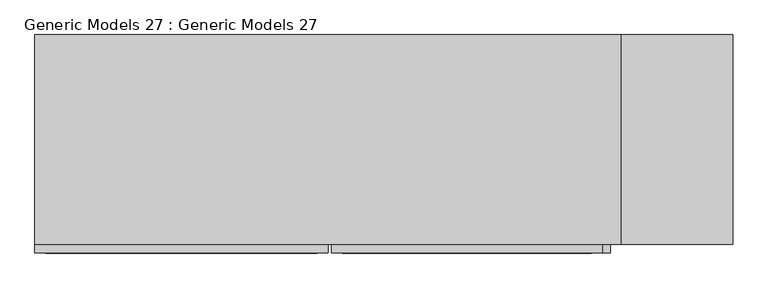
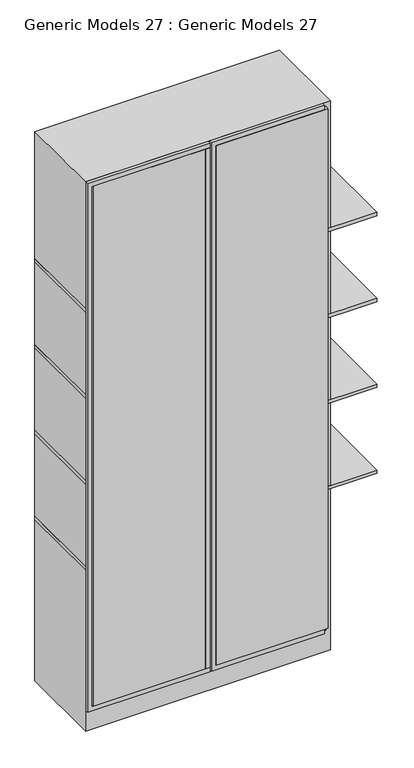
"""IFC4 building model written with IfcOpenShell, lengths in millimetres: proxy geometry, Generic Models 27 : Generic Models 27."""

from ifc_helpers import new_model, si_unit, frame, origin, place, context, project, spatial, polyline, outline, extrude, faceted_brep, source, transform, mapped, element, save


def generic_models_27_generic_models_27_d3de7ab0(model_context):
    return source(origin(), model_context, "Body", "SolidModel", [
        extrude(outline(polyline([(99604.3502509, 12730.5259381), (98319.1043164, 12730.5259381), (98319.1043164, 13116.5358144), (99604.3502509, 13116.5358144), (99604.3502509, 12730.5259381)]), holes=[polyline([(98342.3939153, 12908.2609157), (98342.3939153, 12938.8008367), (98320.1824272, 12938.8008367), (98320.1824272, 12908.2609157), (98342.3939153, 12908.2609157)]), polyline([(99375.8147175, 12993.7958986), (99375.8147175, 12963.2559776), (99398.0262056, 12963.2559776), (99398.0262056, 12993.7958986), (99375.8147175, 12993.7958986)])]), frame((0.0, 0.0, 1950.0), z_axis=(0.0, 0.0, 1.0), x_axis=(1.0, 0.0, 0.0)), (0.0, 0.0, 1.0), 15.2810656),
        extrude(outline(polyline([(99604.3502509, 12730.5259381), (98319.1043164, 12730.5259381), (98319.1043164, 13116.5358144), (99604.3502509, 13116.5358144), (99604.3502509, 12730.5259381)]), holes=[polyline([(98342.3939153, 12908.2609157), (98342.3939153, 12938.8008367), (98320.1824272, 12938.8008367), (98320.1824272, 12908.2609157), (98342.3939153, 12908.2609157)]), polyline([(99375.8147175, 12993.7958986), (99375.8147175, 12963.2559776), (99398.0262056, 12963.2559776), (99398.0262056, 12993.7958986), (99375.8147175, 12993.7958986)])]), frame((0.0, 0.0, 1550.0), z_axis=(0.0, 0.0, 1.0), x_axis=(1.0, 0.0, 0.0)), (0.0, 0.0, 1.0), 15.2810656),
        extrude(outline(polyline([(99604.3502509, 12730.5259381), (98319.1043164, 12730.5259381), (98319.1043164, 13116.5358144), (99604.3502509, 13116.5358144), (99604.3502509, 12730.5259381)]), holes=[polyline([(98342.3939153, 12908.2609157), (98342.3939153, 12938.8008367), (98320.1824272, 12938.8008367), (98320.1824272, 12908.2609157), (98342.3939153, 12908.2609157)]), polyline([(99375.8147175, 12993.7958986), (99375.8147175, 12963.2559776), (99398.0262056, 12963.2559776), (99398.0262056, 12993.7958986), (99375.8147175, 12993.7958986)])]), frame((0.0, 0.0, 1150.0), z_axis=(0.0, 0.0, 1.0), x_axis=(1.0, 0.0, 0.0)), (0.0, 0.0, 1.0), 15.2810656),
        extrude(outline(polyline([(99604.3502509, 12730.5259381), (98319.1043164, 12730.5259381), (98319.1043164, 13116.5358144), (99604.3502509, 13116.5358144), (99604.3502509, 12730.5259381)]), holes=[polyline([(98342.3939153, 12908.2609157), (98342.3939153, 12938.8008367), (98320.1824272, 12938.8008367), (98320.1824272, 12908.2609157), (98342.3939153, 12908.2609157)]), polyline([(99375.8147175, 12993.7958986), (99375.8147175, 12963.2559776), (99398.0262056, 12963.2559776), (99398.0262056, 12993.7958986), (99375.8147175, 12993.7958986)])]), frame((0.0, 0.0, 750.0), z_axis=(0.0, 0.0, 1.0), x_axis=(1.0, 0.0, 0.0)), (0.0, 0.0, 1.0), 15.2810656),
        extrude(outline(polyline([(98859.1043164, 12714.5259381), (98343.6703891, 12714.5259381), (98343.6703891, 12730.5259381), (98859.1043164, 12730.5259381), (98859.1043164, 12714.5259381)])), frame((0.0, 0.0, 117.3469012), z_axis=(0.0, 0.0, 1.0), x_axis=(1.0, 0.0, 0.0)), (0.0, 0.0, 1.0), 2420.0),
        extrude(outline(polyline([(99379.1043164, 12714.5259381), (98885.3543164, 12714.5259381), (98885.3543164, 12730.5259381), (99379.1043164, 12730.5259381), (99379.1043164, 12714.5259381)])), frame((0.0, 0.0, 117.3469012), z_axis=(0.0, 0.0, 1.0), x_axis=(1.0, 0.0, 0.0)), (0.0, 0.0, 1.0), 2420.0),
        faceted_brep([(98319.1043164, 12730.5259381, 2557.4202247), (98319.1043164, 12730.5259381, 0.0), (99398.5838644, 12730.5259381, 0.0), (99398.5838644, 12730.5259381, 2557.4202247), (98339.1043164, 12730.5259381, 2537.4202247), (99379.1043164, 12730.5259381, 2537.4202247), (99379.1043164, 12730.5259381, 97.3469012), (98339.1043164, 12730.5259381, 97.3469012), (98319.1043164, 13116.5358144, 2557.4202247), (99398.5838644, 13116.5358144, 2557.4202247), (99398.5838644, 13116.5358144, 0.0), (98319.1043164, 13116.5358144, 0.0), (98339.1043164, 13116.5358144, 2537.4202247), (98339.1043164, 13116.5358144, 97.3469012), (99379.1043164, 13116.5358144, 97.3469012), (99379.1043164, 13116.5358144, 2537.4202247), (99379.1043164, 12963.2559776, 102.6030605), (99379.1043164, 12993.7958986, 102.6030605), (99379.1043164, 12993.7958986, 2496.40865), (99379.1043164, 12963.2559776, 2496.40865), (98339.1043164, 12938.8008367, 97.3469012), (98320.1824272, 12938.8008367, 97.3469012), (98320.1824272, 12908.2609157, 97.3469012), (98339.1043164, 12908.2609157, 97.3469012), (98339.1043164, 12908.2609157, 2531.7167563), (98339.1043164, 12938.8008367, 2531.7167563), (98320.1824272, 12908.2609157, 2531.7167563), (98320.1824272, 12938.8008367, 2531.7167563), (99398.0262056, 12963.2559776, 102.6030605), (99398.0262056, 12993.7958986, 102.6030605), (99398.0262056, 12993.7958986, 2496.40865), (99398.0262056, 12963.2559776, 2496.40865)], [[[0, 1, 2, 3], [4, 5, 6, 7]], [[8, 9, 10, 11], [12, 13, 14, 15]], [[1, 0, 8, 11]], [[2, 1, 11, 10]], [[3, 2, 10, 9]], [[0, 3, 9, 8]], [[5, 4, 12, 15]], [[6, 5, 15, 14], [16, 17, 18, 19]], [[7, 6, 14, 13, 20, 21, 22, 23]], [[4, 7, 23, 24, 25, 20, 13, 12]], [[26, 27, 25, 24]], [[27, 21, 20, 25]], [[27, 26, 22, 21]], [[22, 26, 24, 23]], [[28, 29, 17, 16]], [[30, 31, 19, 18]], [[29, 30, 18, 17]], [[29, 28, 31, 30]], [[31, 28, 16, 19]]]),
        extrude(outline(polyline([(2557.3469012, 98865.3543164), (97.3469012, 98865.3543164), (97.3469012, 99364.3502509), (2557.3469012, 99364.3502509), (2557.3469012, 98865.3543164)]), holes=[polyline([(2537.3469012, 98885.3543164), (2537.3469012, 99344.3502509), (117.3469012, 99344.3502509), (117.3469012, 98885.3543164), (2537.3469012, 98885.3543164)])]), frame((0.0, 12714.5259381, 0.0), z_axis=(0.0, 1.0, 0.0), x_axis=(0.0, 0.0, 1.0)), (0.0, 0.0, 1.0), 16.0),
        extrude(outline(polyline([(2557.3469012, 98319.1043164), (97.3469012, 98319.1043164), (97.3469012, 98859.1043164), (2557.3469012, 98859.1043164), (2557.3469012, 98319.1043164)]), holes=[polyline([(2537.3469012, 98339.1043164), (2537.3469012, 98839.1043164), (117.3469012, 98839.1043164), (117.3469012, 98339.1043164), (2537.3469012, 98339.1043164)])]), frame((0.0, 12714.5259381, 0.0), z_axis=(0.0, 1.0, 0.0), x_axis=(0.0, 0.0, 1.0)), (0.0, 0.0, 1.0), 16.0),
    ])


if __name__ == "__main__":
    model = new_model("IFC4")
    model_context = context("Model", 3, world=origin())
    ifc_project = project(units=[si_unit("LENGTHUNIT", "METRE", prefix="MILLI")], contexts=[model_context])
    site = spatial("IfcSite", under=ifc_project)
    building = spatial("IfcBuilding", under=site)
    placement = place(None, origin())
    generic_models_27_generic_models_27_shape = generic_models_27_generic_models_27_d3de7ab0(model_context)
    element("IfcBuildingElementProxy", 1, Name="Generic Models 27 : Generic Models 27", ObjectType="Generic Models 27 : Generic Models 27", at=placement, inside=building, context=model_context, shape_type="MappedRepresentation", body=[
        mapped(generic_models_27_generic_models_27_shape, transform((0.0, 0.0, 0.0), x_axis=(1.0, 0.0, 0.0), y_axis=(0.0, 1.0, 0.0), z_axis=(0.0, 0.0, 1.0))),
    ])
    save(model, "model.ifc")
